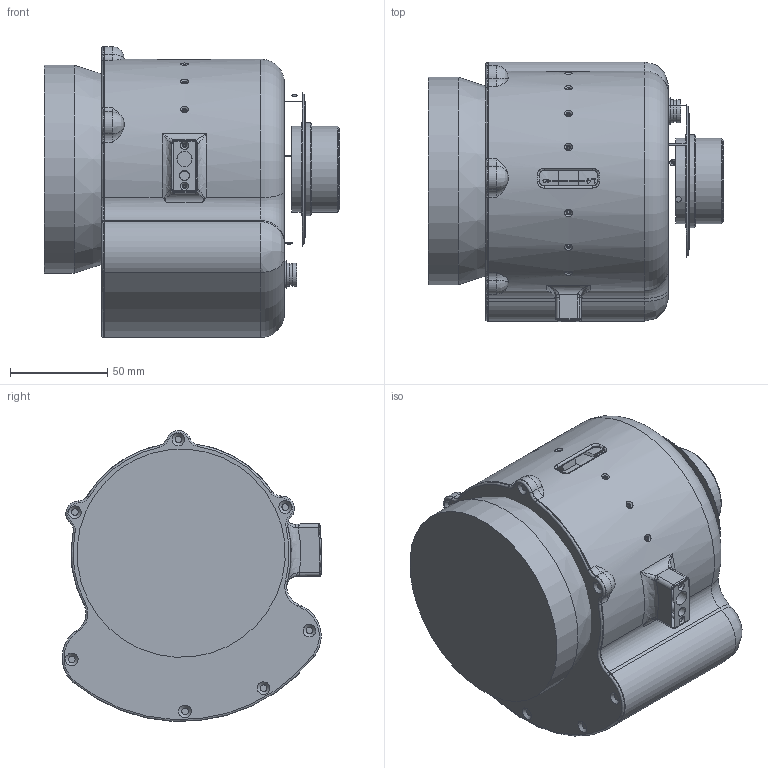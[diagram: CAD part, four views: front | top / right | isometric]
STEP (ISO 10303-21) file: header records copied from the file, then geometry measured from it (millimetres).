
FILE_DESCRIPTION((''),'2;1');
FILE_NAME('\\10.0.0.209\Doc Produ\Meccaniche\STP\A_2008\C0812\C0812_000\C0812_077.stp','2014-04-28T12:08:15',('mcilia'),(''),'Autodesk Inventor 2010','Autodesk Inventor 2010','');
FILE_SCHEMA(('AUTOMOTIVE_DESIGN { 1 0 10303 214 1 1 1 1 }'));
Length unit declared in the file: millimetre
Products named in the file (2): C0812_077_000 (Livello di dettaglio sostituto1); C0812_077
Assembly tree (1 placements, depth 2):
  C0812_077_000 (Livello di dettaglio sostituto1)
    C0812_077
Bounding box: 151.71 x 133.4 x 149.38 mm (x, y, z)
Surface area: 179279.9 mm2 (no closed solid volume)
Topology: 0 solids, 41 shells, 187 faces, 2879 edges, 2714 vertices
Faces by surface type: bspline 51, cylinder 48, plane 40, torus 32, cone 15, sphere 1
Full cylindrical faces by diameter (mm): 11.1 x1, 11.9 x2, 14 x1, 29 x1, 42 x1, 44 x1, 48 x1, 95 x2, 107 x1
Entity records: 28925 total; most frequent: CARTESIAN_POINT 9910, DIRECTION 4217, ORIENTED_EDGE 3066, EDGE_CURVE 2802, VERTEX_POINT 2686, AXIS2_PLACEMENT_3D 1939, CIRCLE 1792, VECTOR 339
